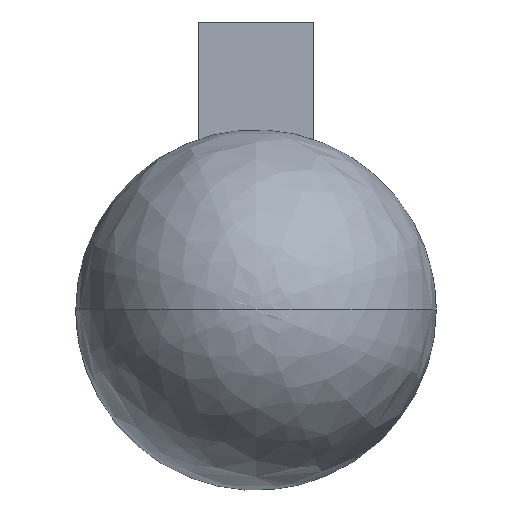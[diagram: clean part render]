
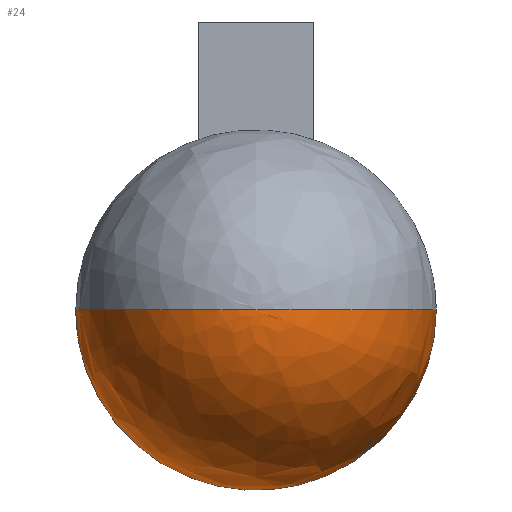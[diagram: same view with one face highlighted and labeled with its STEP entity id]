
A CAD part, top view. The second image highlights one B-rep face of the part: STEP entity #24.
In plain terms, the highlighted free-form (B-spline) face has degree [2, 2] with [5, 5] control points.
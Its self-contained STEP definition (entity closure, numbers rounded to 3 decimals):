
#24=ADVANCED_FACE('',(#33),#126,.T.);
#33=FACE_OUTER_BOUND('',#43,.T.);
#43=EDGE_LOOP('',(#75,#76,#77));
#75=ORIENTED_EDGE('',*,*,#94,.T.);
#76=ORIENTED_EDGE('',*,*,#90,.F.);
#77=ORIENTED_EDGE('',*,*,#93,.F.);
#90=EDGE_CURVE('',#119,#120,#98,.T.);
#93=EDGE_CURVE('',#121,#119,#101,.T.);
#94=EDGE_CURVE('',#121,#120,#102,.T.);
#98=(
BOUNDED_CURVE()
B_SPLINE_CURVE(2,(#316,#317,#318),.UNSPECIFIED.,.F.,.F.)
B_SPLINE_CURVE_WITH_KNOTS((3,3),(10.898,12.469),
 .UNSPECIFIED.)
CURVE()
GEOMETRIC_REPRESENTATION_ITEM()
RATIONAL_B_SPLINE_CURVE((1.,0.707,1.))
REPRESENTATION_ITEM('')
);
#101=(
BOUNDED_CURVE()
B_SPLINE_CURVE(2,(#327,#328,#329,#330,#331),.UNSPECIFIED.,.F.,.F.)
B_SPLINE_CURVE_WITH_KNOTS((3,2,3),(-186.918,-93.459,
0.),.UNSPECIFIED.)
CURVE()
GEOMETRIC_REPRESENTATION_ITEM()
RATIONAL_B_SPLINE_CURVE((1.,0.707,1.,0.707,1.))
REPRESENTATION_ITEM('')
);
#102=(
BOUNDED_CURVE()
B_SPLINE_CURVE(2,(#332,#333,#334),.UNSPECIFIED.,.F.,.F.)
B_SPLINE_CURVE_WITH_KNOTS((3,3),(10.898,12.469),
 .UNSPECIFIED.)
CURVE()
GEOMETRIC_REPRESENTATION_ITEM()
RATIONAL_B_SPLINE_CURVE((1.,0.707,1.))
REPRESENTATION_ITEM('')
);
#119=VERTEX_POINT('',#281);
#120=VERTEX_POINT('',#282);
#121=VERTEX_POINT('',#283);
#126=(
BOUNDED_SURFACE()
B_SPLINE_SURFACE(2,2,((#249,#250,#251,#252,#253),(#254,#255,#256,#257,#258),
(#259,#260,#261,#262,#263),(#264,#265,#266,#267,#268),(#269,#270,#271,#272,
#273)),.UNSPECIFIED.,.F.,.F.,.F.)
B_SPLINE_SURFACE_WITH_KNOTS((3,2,3),(3,2,3),(9.754,10.898,
12.469),(186.918,280.377,373.836),
 .UNSPECIFIED.)
GEOMETRIC_REPRESENTATION_ITEM()
RATIONAL_B_SPLINE_SURFACE(((0.884,0.625,0.884,
0.625,0.884),(0.787,0.556,
0.787,0.556,0.787),(1.,0.707,
1.,0.707,1.),(0.707,0.5,0.707,0.5,0.707),
(1.,0.707,1.,0.707,1.)))
REPRESENTATION_ITEM('')
SURFACE()
);
#249=CARTESIAN_POINT('',(24.891,-18.507,123.309));
#250=CARTESIAN_POINT('',(24.891,-43.507,123.309));
#251=CARTESIAN_POINT('',(-0.109,-43.507,123.309));
#252=CARTESIAN_POINT('',(-25.109,-43.507,123.309));
#253=CARTESIAN_POINT('',(-25.109,-18.507,123.309));
#254=CARTESIAN_POINT('',(62.391,-18.507,143.603));
#255=CARTESIAN_POINT('',(62.391,-81.007,143.603));
#256=CARTESIAN_POINT('',(-0.109,-81.007,143.603));
#257=CARTESIAN_POINT('',(-62.609,-81.007,143.603));
#258=CARTESIAN_POINT('',(-62.609,-18.507,143.603));
#259=CARTESIAN_POINT('',(62.391,-18.507,194.339));
#260=CARTESIAN_POINT('',(62.391,-81.007,194.339));
#261=CARTESIAN_POINT('',(-0.109,-81.007,194.339));
#262=CARTESIAN_POINT('',(-62.609,-81.007,194.339));
#263=CARTESIAN_POINT('',(-62.609,-18.507,194.339));
#264=CARTESIAN_POINT('',(62.391,-18.507,271.839));
#265=CARTESIAN_POINT('',(62.391,-81.007,271.839));
#266=CARTESIAN_POINT('',(-0.109,-81.007,271.839));
#267=CARTESIAN_POINT('',(-62.609,-81.007,271.839));
#268=CARTESIAN_POINT('',(-62.609,-18.507,271.839));
#269=CARTESIAN_POINT('',(-0.109,-18.507,271.839));
#270=CARTESIAN_POINT('',(-0.109,-18.507,271.839));
#271=CARTESIAN_POINT('',(-0.109,-18.507,271.839));
#272=CARTESIAN_POINT('',(-0.109,-18.507,271.839));
#273=CARTESIAN_POINT('',(-0.109,-18.507,271.839));
#281=CARTESIAN_POINT('',(-62.609,-18.507,194.339));
#282=CARTESIAN_POINT('',(-0.109,-18.507,271.839));
#283=CARTESIAN_POINT('',(62.391,-18.507,194.339));
#316=CARTESIAN_POINT('',(-62.609,-18.507,194.339));
#317=CARTESIAN_POINT('',(-62.609,-18.507,271.839));
#318=CARTESIAN_POINT('',(-0.109,-18.507,271.839));
#327=CARTESIAN_POINT('',(62.391,-18.507,194.339));
#328=CARTESIAN_POINT('',(62.391,-81.007,194.339));
#329=CARTESIAN_POINT('',(-0.109,-81.007,194.339));
#330=CARTESIAN_POINT('',(-62.609,-81.007,194.339));
#331=CARTESIAN_POINT('',(-62.609,-18.507,194.339));
#332=CARTESIAN_POINT('',(62.391,-18.507,194.339));
#333=CARTESIAN_POINT('',(62.391,-18.507,271.839));
#334=CARTESIAN_POINT('',(-0.109,-18.507,271.839));
